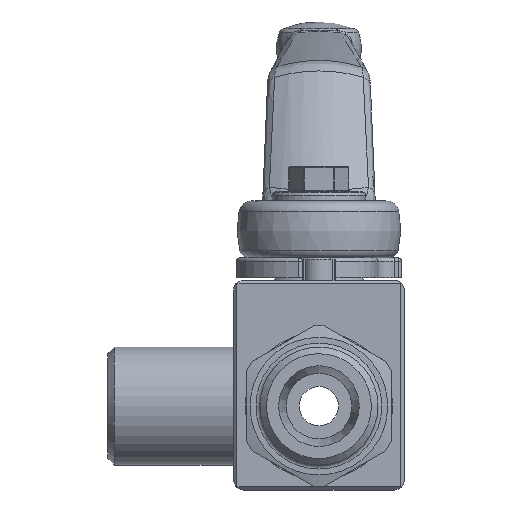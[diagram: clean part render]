
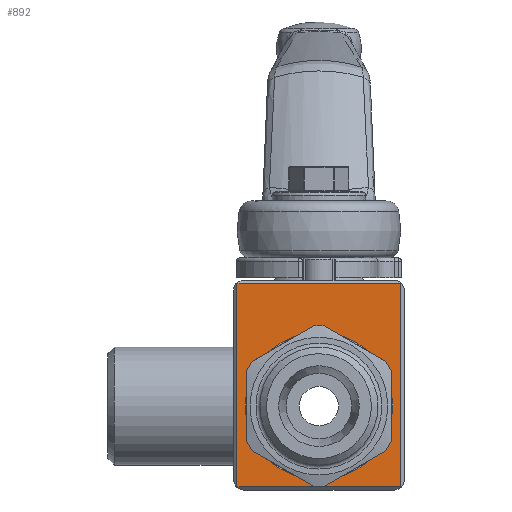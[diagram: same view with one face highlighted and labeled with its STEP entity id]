
A CAD part, front view. The second image highlights one B-rep face of the part: STEP entity #892.
In plain terms, the highlighted planar face has unit normal (0, -1, 0).
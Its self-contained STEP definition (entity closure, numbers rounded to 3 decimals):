
#892 = ADVANCED_FACE( '', ( #1915, #1916 ), #1917, .F. );
#1915 = FACE_BOUND( '', #3644, .T. );
#1916 = FACE_OUTER_BOUND( '', #3645, .T. );
#1917 = PLANE( '', #3646 );
#3644 = EDGE_LOOP( '', ( #6346 ) );
#3645 = EDGE_LOOP( '', ( #6347, #6348, #6349, #6350 ) );
#3646 = AXIS2_PLACEMENT_3D( '', #6351, #6352, #6353 );
#6346 = ORIENTED_EDGE( '', *, *, #8930, .T. );
#6347 = ORIENTED_EDGE( '', *, *, #8931, .T. );
#6348 = ORIENTED_EDGE( '', *, *, #8932, .T. );
#6349 = ORIENTED_EDGE( '', *, *, #8933, .T. );
#6350 = ORIENTED_EDGE( '', *, *, #8934, .T. );
#6351 = CARTESIAN_POINT( '', ( -13., -18.1, 19.2 ) );
#6352 = DIRECTION( '', ( 0., 1., 0. ) );
#6353 = DIRECTION( '', ( 0., 0., 1. ) );
#8930 = EDGE_CURVE( '', #10595, #10595, #10596, .T. );
#8931 = EDGE_CURVE( '', #10597, #10598, #10599, .T. );
#8932 = EDGE_CURVE( '', #10598, #10600, #10601, .T. );
#8933 = EDGE_CURVE( '', #10600, #10602, #10603, .T. );
#8934 = EDGE_CURVE( '', #10602, #10597, #10604, .T. );
#10595 = VERTEX_POINT( '', #13399 );
#10596 = CIRCLE( '', #13400, 11.25 );
#10597 = VERTEX_POINT( '', #13401 );
#10598 = VERTEX_POINT( '', #13402 );
#10599 = LINE( '', #13403, #13404 );
#10600 = VERTEX_POINT( '', #13405 );
#10601 = LINE( '', #13406, #13407 );
#10602 = VERTEX_POINT( '', #13408 );
#10603 = LINE( '', #13409, #13410 );
#10604 = LINE( '', #13411, #13412 );
#13399 = CARTESIAN_POINT( '', ( 0., -18.1, 11.25 ) );
#13400 = AXIS2_PLACEMENT_3D( '', #15617, #15618, #15619 );
#13401 = CARTESIAN_POINT( '', ( -12.5, -18.1, 18.7 ) );
#13402 = CARTESIAN_POINT( '', ( -12.5, -18.1, -12.3 ) );
#13403 = CARTESIAN_POINT( '', ( -12.5, -18.1, 19.2 ) );
#13404 = VECTOR( '', #15620, 1000. );
#13405 = CARTESIAN_POINT( '', ( 12.5, -18.1, -12.3 ) );
#13406 = CARTESIAN_POINT( '', ( -13., -18.1, -12.3 ) );
#13407 = VECTOR( '', #15621, 1000. );
#13408 = CARTESIAN_POINT( '', ( 12.5, -18.1, 18.7 ) );
#13409 = CARTESIAN_POINT( '', ( 12.5, -18.1, 19.2 ) );
#13410 = VECTOR( '', #15622, 1000. );
#13411 = CARTESIAN_POINT( '', ( -13., -18.1, 18.7 ) );
#13412 = VECTOR( '', #15623, 1000. );
#15617 = CARTESIAN_POINT( '', ( 0., -18.1, 0. ) );
#15618 = DIRECTION( '', ( 0., 1., 0. ) );
#15619 = DIRECTION( '', ( 0., 0., 1. ) );
#15620 = DIRECTION( '', ( 0., 0., -1. ) );
#15621 = DIRECTION( '', ( 1., 0., 0. ) );
#15622 = DIRECTION( '', ( 0., 0., 1. ) );
#15623 = DIRECTION( '', ( -1., 0., 0. ) );
